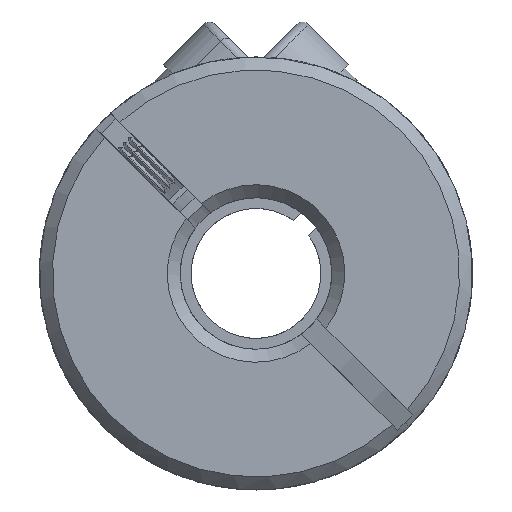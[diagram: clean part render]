
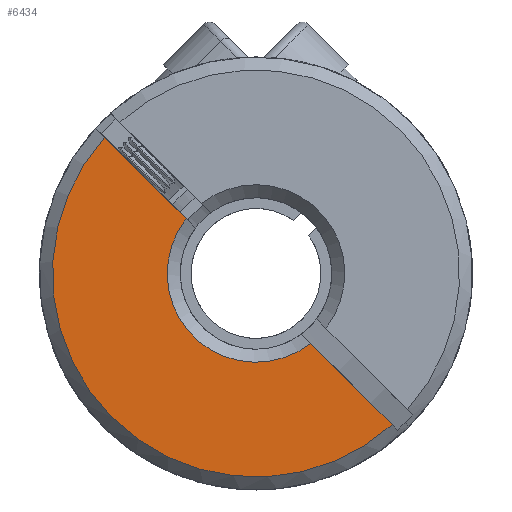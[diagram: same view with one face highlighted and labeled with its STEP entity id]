
A CAD part, front view. The second image highlights one B-rep face of the part: STEP entity #6434.
In plain terms, the highlighted planar face has unit normal (0, -1, 0).
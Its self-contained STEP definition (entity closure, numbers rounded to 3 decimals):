
#1230 = LINE ( 'NONE', #6363, #9360 ) ;
#1272 = AXIS2_PLACEMENT_3D ( 'NONE', #15028, #2339, #6991 ) ;
#1778 = DIRECTION ( 'NONE',  ( -0.707, 0., 0.707 ) ) ;
#2091 = EDGE_CURVE ( 'NONE', #14587, #8266, #13493, .T. ) ;
#2234 = CARTESIAN_POINT ( 'NONE',  ( 2.524, -11.2, -3.231 ) ) ;
#2339 = DIRECTION ( 'NONE',  ( 0., -1., 0. ) ) ;
#2387 = CARTESIAN_POINT ( 'NONE',  ( 0., -11.2, 0. ) ) ;
#4733 = VERTEX_POINT ( 'NONE', #8608 ) ;
#5210 = AXIS2_PLACEMENT_3D ( 'NONE', #6743, #11366, #13608 ) ;
#5457 = EDGE_LOOP ( 'NONE', ( #13591, #13292, #11189, #5595 ) ) ;
#5550 = VERTEX_POINT ( 'NONE', #2234 ) ;
#5586 = PLANE ( 'NONE',  #5210 ) ;
#5595 = ORIENTED_EDGE ( 'NONE', *, *, #11588, .T. ) ;
#6363 = CARTESIAN_POINT ( 'NONE',  ( -8.839, -11.2, 8.132 ) ) ;
#6434 = ADVANCED_FACE ( 'NONE', ( #13198 ), #5586, .T. ) ;
#6479 = CARTESIAN_POINT ( 'NONE',  ( -6.991, -11.2, 6.284 ) ) ;
#6682 = AXIS2_PLACEMENT_3D ( 'NONE', #2387, #10403, #6989 ) ;
#6743 = CARTESIAN_POINT ( 'NONE',  ( 45.083, -11.2, 25.627 ) ) ;
#6989 = DIRECTION ( 'NONE',  ( -0.707, 0., 0.707 ) ) ;
#6991 = DIRECTION ( 'NONE',  ( -0.707, 0., 0.707 ) ) ;
#7038 = EDGE_CURVE ( 'NONE', #8266, #5550, #1230, .T. ) ;
#7416 = VECTOR ( 'NONE', #13850, 1000. ) ;
#8266 = VERTEX_POINT ( 'NONE', #12343 ) ;
#8608 = CARTESIAN_POINT ( 'NONE',  ( -3.231, -11.2, 2.524 ) ) ;
#9360 = VECTOR ( 'NONE', #1778, 1000. ) ;
#10403 = DIRECTION ( 'NONE',  ( 0., 1., 0. ) ) ;
#10667 = CIRCLE ( 'NONE', #6682, 4.1 ) ;
#11189 = ORIENTED_EDGE ( 'NONE', *, *, #7038, .T. ) ;
#11366 = DIRECTION ( 'NONE',  ( 0., -1., 0. ) ) ;
#11560 = EDGE_CURVE ( 'NONE', #4733, #14587, #14656, .T. ) ;
#11588 = EDGE_CURVE ( 'NONE', #5550, #4733, #10667, .T. ) ;
#12343 = CARTESIAN_POINT ( 'NONE',  ( 6.284, -11.2, -6.991 ) ) ;
#13198 = FACE_OUTER_BOUND ( 'NONE', #5457, .T. ) ;
#13292 = ORIENTED_EDGE ( 'NONE', *, *, #2091, .T. ) ;
#13493 = CIRCLE ( 'NONE', #1272, 9.4 ) ;
#13591 = ORIENTED_EDGE ( 'NONE', *, *, #11560, .T. ) ;
#13608 = DIRECTION ( 'NONE',  ( -0.707, 0., 0.707 ) ) ;
#13850 = DIRECTION ( 'NONE',  ( -0.707, 0., 0.707 ) ) ;
#13954 = CARTESIAN_POINT ( 'NONE',  ( 0.205, -11.2, -0.912 ) ) ;
#14587 = VERTEX_POINT ( 'NONE', #6479 ) ;
#14656 = LINE ( 'NONE', #13954, #7416 ) ;
#15028 = CARTESIAN_POINT ( 'NONE',  ( 0., -11.2, 0. ) ) ;
